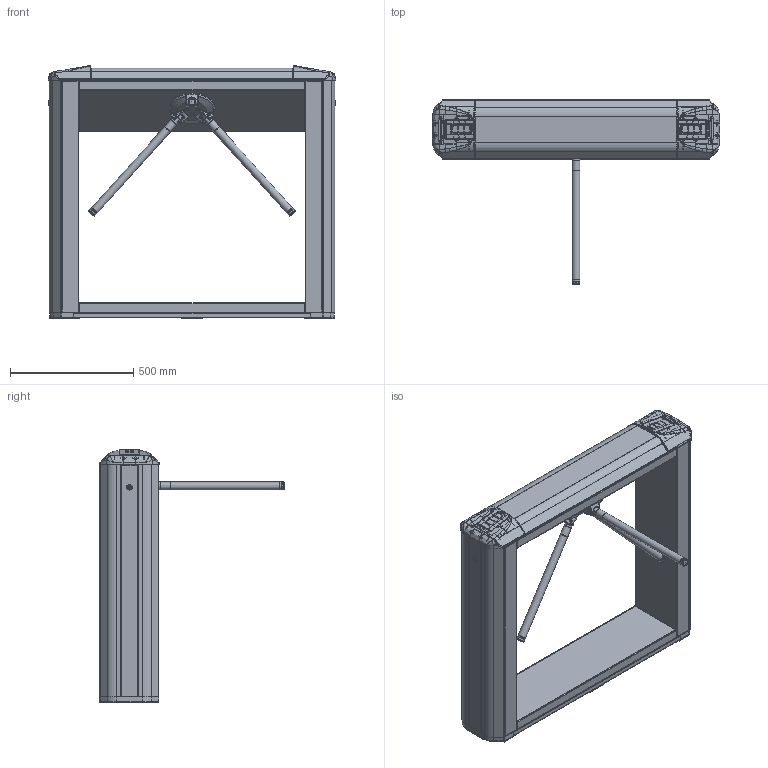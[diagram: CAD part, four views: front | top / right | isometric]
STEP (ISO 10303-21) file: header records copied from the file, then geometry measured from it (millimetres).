
FILE_DESCRIPTION(/* description */ ('Unknown'),/* implementation_level */ '2;1');
FILE_NAME(/* name */ 'KTC01.4A',/* time_stamp */ '2021-11-25T16:20:25+03:00',/* author */ ('Unknown'),/* organization */ ('Unknown'),/* preprocessor_version */ 'ST-DEVELOPER v18.1',/* originating_system */ 'Solid Edge',/* authorisation */ 'Unknown');
FILE_SCHEMA (('CONFIG_CONTROL_DESIGN','INTEGRATED_CNC_SCHEMA'));
Products named in the file (1): KTC01.4A
Bounding box: 1169.47 x 751.42 x 1027.29 mm (x, y, z)
Volume: 5848956.8 mm3; surface area: 6698443.5 mm2
Topology: 53 solids, 53 shells, 5277 faces, 13362 edges, 8168 vertices
Faces by surface type: plane 2003, cylinder 1872, torus 499, bspline 373, sphere 334, cone 196
Full cylindrical faces by diameter (mm): 0.4 x4, 2.5 x12, 3.242 x17, 3.3 x35, 3.7 x4, 4 x1, 5 x14, 6.466 x3, 7 x41, 8 x19, 9 x3, 10 x21, 12 x4, 13 x7, 14.5 x3, 16 x4, 20 x1, 21 x8, 23 x2, 23.4 x3, 24 x8, 27 x6, 28 x3, 28.5 x6, 32 x9, 185 x1, 188 x1
Entity records: 182213 total; most frequent: CARTESIAN_POINT 54626, ORIENTED_EDGE 25408, DIRECTION 23559, EDGE_CURVE 12704, AXIS2_PLACEMENT_3D 8672, VERTEX_POINT 7986, LINE 6215, VECTOR 6215
